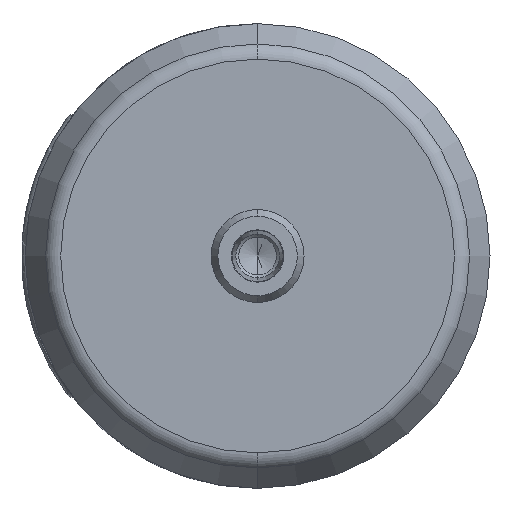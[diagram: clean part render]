
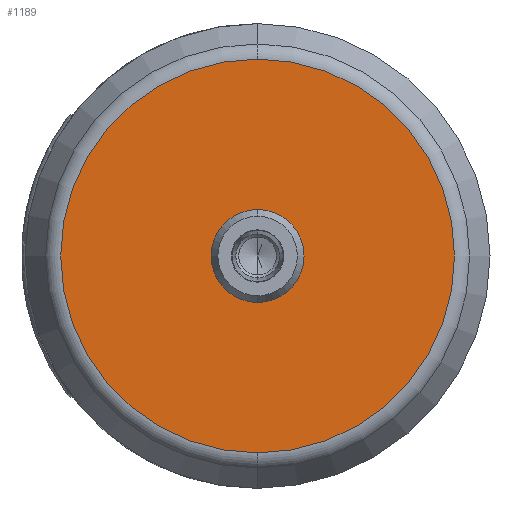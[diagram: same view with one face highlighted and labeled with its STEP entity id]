
A CAD part, front view. The second image highlights one B-rep face of the part: STEP entity #1189.
In plain terms, the highlighted planar face has unit normal (0, -1, 0).
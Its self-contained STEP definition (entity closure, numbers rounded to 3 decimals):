
#281 = AXIS2_PLACEMENT_3D ( 'NONE', #967, #1063, #2587 ) ;
#448 = ORIENTED_EDGE ( 'NONE', *, *, #7251, .F. ) ;
#585 = CARTESIAN_POINT ( 'NONE',  ( 0., 0., 0. ) ) ;
#682 = VERTEX_POINT ( 'NONE', #7758 ) ;
#967 = CARTESIAN_POINT ( 'NONE',  ( 0., 0., 0. ) ) ;
#1063 = DIRECTION ( 'NONE',  ( 0., 1., 0. ) ) ;
#1189 = ADVANCED_FACE ( 'NONE', ( #10022, #7134 ), #7108, .T. ) ;
#1737 = ORIENTED_EDGE ( 'NONE', *, *, #7383, .T. ) ;
#2159 = EDGE_LOOP ( 'NONE', ( #9176, #448 ) ) ;
#2311 = CIRCLE ( 'NONE', #4036, 7.75 ) ;
#2318 = CARTESIAN_POINT ( 'NONE',  ( 0., 0., 0. ) ) ;
#2336 = VERTEX_POINT ( 'NONE', #5539 ) ;
#2587 = DIRECTION ( 'NONE',  ( 0., 0., 1. ) ) ;
#2694 = VERTEX_POINT ( 'NONE', #4586 ) ;
#3116 = DIRECTION ( 'NONE',  ( 0., 1., 0. ) ) ;
#3133 = DIRECTION ( 'NONE',  ( 0., -1., 0. ) ) ;
#3692 = AXIS2_PLACEMENT_3D ( 'NONE', #8026, #4125, #9655 ) ;
#3941 = AXIS2_PLACEMENT_3D ( 'NONE', #2318, #3133, #4768 ) ;
#4036 = AXIS2_PLACEMENT_3D ( 'NONE', #8545, #4605, #7727 ) ;
#4125 = DIRECTION ( 'NONE',  ( 0., 1., 0. ) ) ;
#4586 = CARTESIAN_POINT ( 'NONE',  ( 0., 0., 33.892 ) ) ;
#4605 = DIRECTION ( 'NONE',  ( 0., 1., 0. ) ) ;
#4768 = DIRECTION ( 'NONE',  ( 0., 0., -1. ) ) ;
#5232 = EDGE_CURVE ( 'NONE', #6992, #682, #6481, .T. ) ;
#5399 = EDGE_LOOP ( 'NONE', ( #1737, #10367 ) ) ;
#5539 = CARTESIAN_POINT ( 'NONE',  ( 0., 0., -33.892 ) ) ;
#5554 = CIRCLE ( 'NONE', #281, 33.892 ) ;
#5729 = CARTESIAN_POINT ( 'NONE',  ( 0., 0., -7.75 ) ) ;
#6481 = CIRCLE ( 'NONE', #8242, 7.75 ) ;
#6928 = EDGE_CURVE ( 'NONE', #2694, #2336, #8698, .T. ) ;
#6992 = VERTEX_POINT ( 'NONE', #5729 ) ;
#7108 = PLANE ( 'NONE',  #3941 ) ;
#7134 = FACE_OUTER_BOUND ( 'NONE', #2159, .T. ) ;
#7251 = EDGE_CURVE ( 'NONE', #2336, #2694, #5554, .T. ) ;
#7383 = EDGE_CURVE ( 'NONE', #682, #6992, #2311, .T. ) ;
#7727 = DIRECTION ( 'NONE',  ( 0., 0., 1. ) ) ;
#7734 = DIRECTION ( 'NONE',  ( 0., 0., 1. ) ) ;
#7758 = CARTESIAN_POINT ( 'NONE',  ( 0., 0., 7.75 ) ) ;
#8026 = CARTESIAN_POINT ( 'NONE',  ( 0., 0., 0. ) ) ;
#8242 = AXIS2_PLACEMENT_3D ( 'NONE', #585, #3116, #7734 ) ;
#8545 = CARTESIAN_POINT ( 'NONE',  ( 0., 0., 0. ) ) ;
#8698 = CIRCLE ( 'NONE', #3692, 33.892 ) ;
#9176 = ORIENTED_EDGE ( 'NONE', *, *, #6928, .F. ) ;
#9655 = DIRECTION ( 'NONE',  ( 0., 0., 1. ) ) ;
#10022 = FACE_BOUND ( 'NONE', #5399, .T. ) ;
#10367 = ORIENTED_EDGE ( 'NONE', *, *, #5232, .T. ) ;
